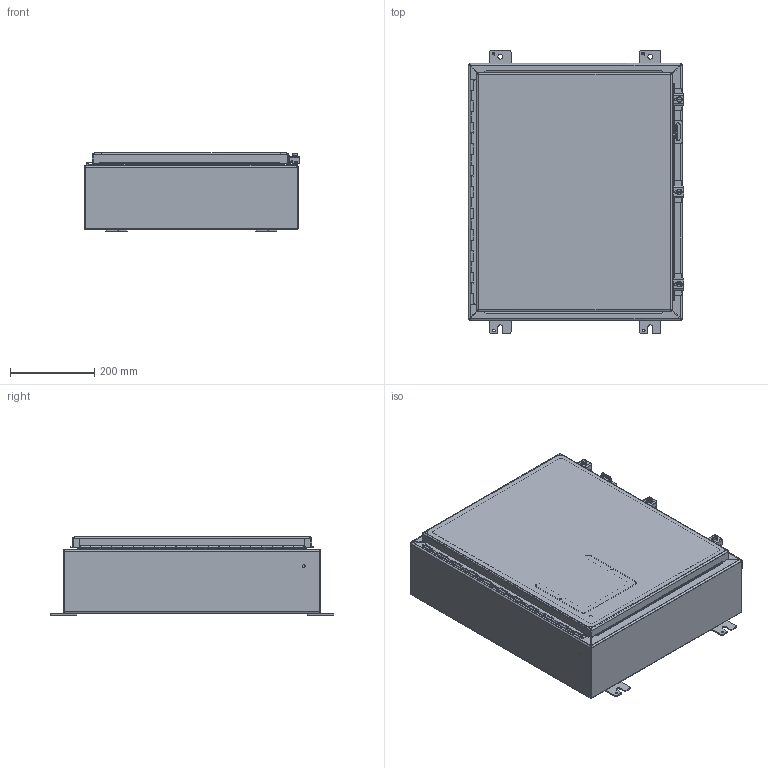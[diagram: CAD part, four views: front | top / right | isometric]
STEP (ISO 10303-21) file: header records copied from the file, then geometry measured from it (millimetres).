
FILE_DESCRIPTION (( 'STEP AP203' ), '1' );
FILE_NAME ('a24h2006sslp.STEP', '2022-09-09T02:01:19', ( '' ), ( '' ), 'SwSTEP 2.0', 'SolidWorks 2020', '' );
FILE_SCHEMA (( 'CONFIG_CONTROL_DESIGN' ));
Length unit declared in the file: inch
Products named in the file (25): 22132004; 89144636_96194A101; 87560043; 24352001; 22352005_Default1; 22230002; 22103001_CompressedDrw; 22118722; 22101002; 22107002; a24h2006sslp; 22104005_DEFAULT; 87751114_87751114; 99414350_Post weld; 22110002; 22112003_AFTER WELD; 89063195; 22118322; 22340005; 89063307; 91307400; 22275004; 89063263; 89124285; 22118022
Assembly tree (39 placements, depth 4):
  a24h2006sslp
    89063263
      22340005
      22275004  x2
      22132004
      22118722
      99414350_Post weld
      22230002  x3
      22110002  x4
      22112003_AFTER WELD  x4
    89124285
      89063195
        22352005_Default1
        22118022
        22107002
        99414350_Post weld
        87751114_87751114  x2
        89063307
      24352001
      89144636_96194A101  x2
    22118322
    91307400  x3
      87560043
      22101002
      22104005_DEFAULT
      22103001_CompressedDrw
Bounding box: 511.43 x 673.1 x 185.14 mm (x, y, z)
Volume: 2204304.9 mm3; surface area: 2415366.8 mm2
Topology: 43 solids, 43 shells, 3299 faces, 8721 edges, 5648 vertices
Faces by surface type: plane 1856, bspline 776, cylinder 511, torus 94, cone 58, sphere 4
Entity records: 95258 total; most frequent: CARTESIAN_POINT 41265, ORIENTED_EDGE 11666, DIRECTION 8581, EDGE_CURVE 5833, LINE 3865, VECTOR 3865, VERTEX_POINT 3786, AXIS2_PLACEMENT_3D 2358
